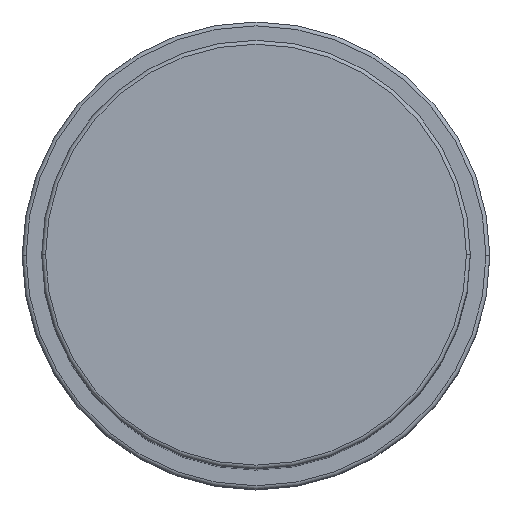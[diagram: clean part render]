
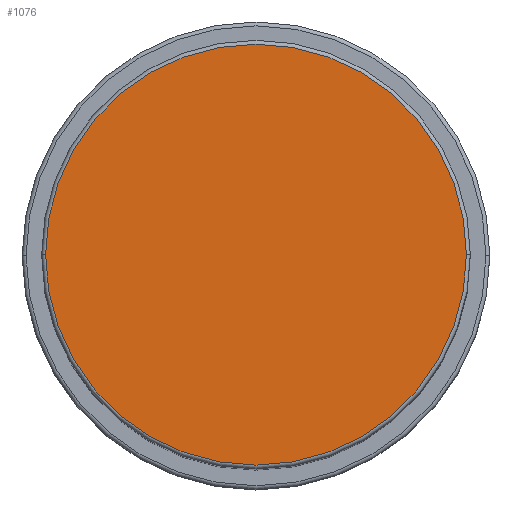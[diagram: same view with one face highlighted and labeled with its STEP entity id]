
A CAD part, top view. The second image highlights one B-rep face of the part: STEP entity #1076.
In plain terms, the highlighted planar face has unit normal (0, 0, 1).
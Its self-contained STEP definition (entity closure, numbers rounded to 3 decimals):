
#93 = AXIS2_PLACEMENT_3D ( 'NONE', #1404, #1126, #878 ) ;
#151 = CIRCLE ( 'NONE', #883, 27. ) ;
#206 = EDGE_LOOP ( 'NONE', ( #891, #383 ) ) ;
#383 = ORIENTED_EDGE ( 'NONE', *, *, #976, .T. ) ;
#406 = CARTESIAN_POINT ( 'NONE',  ( 0., 0., 111. ) ) ;
#748 = PLANE ( 'NONE',  #93 ) ;
#878 = DIRECTION ( 'NONE',  ( 1., 0., 0. ) ) ;
#883 = AXIS2_PLACEMENT_3D ( 'NONE', #1608, #1214, #1464 ) ;
#891 = ORIENTED_EDGE ( 'NONE', *, *, #1006, .T. ) ;
#950 = DIRECTION ( 'NONE',  ( 1., 0., 0. ) ) ;
#976 = EDGE_CURVE ( 'NONE', #1021, #1580, #151, .T. ) ;
#1006 = EDGE_CURVE ( 'NONE', #1580, #1021, #1176, .T. ) ;
#1021 = VERTEX_POINT ( 'NONE', #1509 ) ;
#1076 = ADVANCED_FACE ( 'NONE', ( #1299 ), #748, .T. ) ;
#1126 = DIRECTION ( 'NONE',  ( 0., 0., 1. ) ) ;
#1176 = CIRCLE ( 'NONE', #1664, 27. ) ;
#1214 = DIRECTION ( 'NONE',  ( 0., 0., 1. ) ) ;
#1299 = FACE_OUTER_BOUND ( 'NONE', #206, .T. ) ;
#1332 = DIRECTION ( 'NONE',  ( 0., 0., 1. ) ) ;
#1404 = CARTESIAN_POINT ( 'NONE',  ( 0., 0., 111. ) ) ;
#1464 = DIRECTION ( 'NONE',  ( 1., 0., 0. ) ) ;
#1502 = CARTESIAN_POINT ( 'NONE',  ( 27., 0., 111. ) ) ;
#1509 = CARTESIAN_POINT ( 'NONE',  ( -27., 0., 111. ) ) ;
#1580 = VERTEX_POINT ( 'NONE', #1502 ) ;
#1608 = CARTESIAN_POINT ( 'NONE',  ( 0., 0., 111. ) ) ;
#1664 = AXIS2_PLACEMENT_3D ( 'NONE', #406, #1332, #950 ) ;
